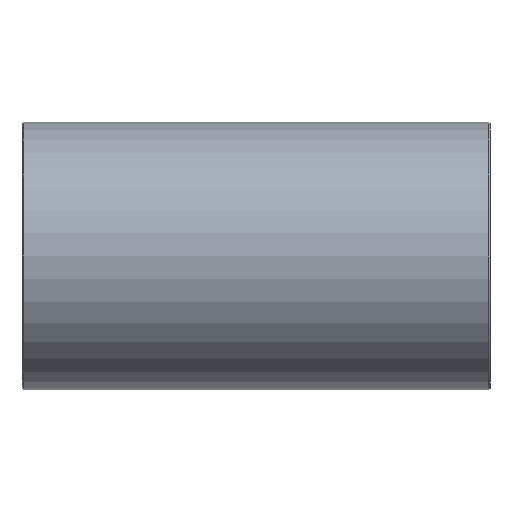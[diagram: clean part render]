
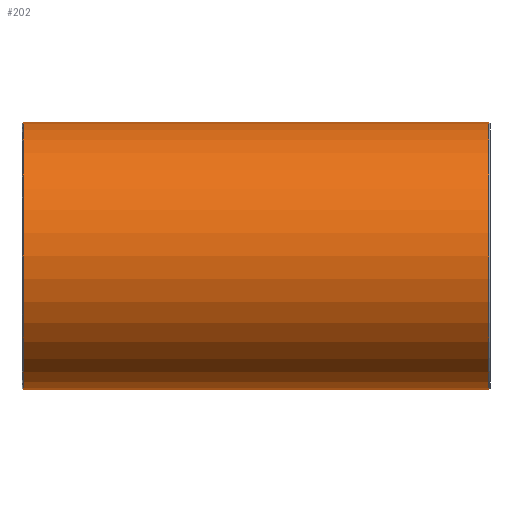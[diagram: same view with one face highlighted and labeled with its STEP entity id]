
A CAD part, front view. The second image highlights one B-rep face of the part: STEP entity #202.
In plain terms, the highlighted cylindrical face has radius 23.45 mm (diameter 46.9 mm), a full revolution.
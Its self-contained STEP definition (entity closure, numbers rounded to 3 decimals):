
#73=CARTESIAN_POINT('',(40.8,23.45,0.));
#74=VERTEX_POINT('',#73);
#75=CARTESIAN_POINT('',(40.8,0.0,0.0));
#76=DIRECTION('',(1.0,0.0,0.0));
#77=DIRECTION('',(0.0,-1.0,0.0));
#78=AXIS2_PLACEMENT_3D('',#75,#76,#77);
#79=CIRCLE('',#78,23.45);
#80=EDGE_CURVE('',#74,#74,#79,.T.);
#116=CARTESIAN_POINT('',(0.,0.0,0.0));
#117=DIRECTION('',(1.0,0.0,0.0));
#118=DIRECTION('',(0.0,1.0,0.0));
#119=AXIS2_PLACEMENT_3D('',#116,#117,#118);
#120=CYLINDRICAL_SURFACE('',#119,23.45);
#121=CARTESIAN_POINT('',(-40.8,23.45,0.));
#122=VERTEX_POINT('',#121);
#123=CARTESIAN_POINT('',(-40.8,0.0,0.0));
#124=DIRECTION('',(-1.0,0.0,0.0));
#125=DIRECTION('',(0.0,-1.0,0.0));
#126=AXIS2_PLACEMENT_3D('',#123,#124,#125);
#127=CIRCLE('',#126,23.45);
#128=EDGE_CURVE('',#122,#122,#127,.T.);
#129=ORIENTED_EDGE('',*,*,#128,.F.);
#130=EDGE_LOOP('',(#129));
#131=FACE_OUTER_BOUND('',#130,.T.);
#132=CARTESIAN_POINT('',(0.,15.832,17.299));
#133=VERTEX_POINT('',#132);
#134=CARTESIAN_POINT('',(0.,15.832,17.299));
#135=CARTESIAN_POINT('',(0.789,15.832,17.299));
#136=CARTESIAN_POINT('',(2.373,15.919,17.22));
#137=CARTESIAN_POINT('',(4.674,16.292,16.871));
#138=CARTESIAN_POINT('',(6.87,16.855,16.312));
#139=CARTESIAN_POINT('',(8.945,17.557,15.558));
#140=CARTESIAN_POINT('',(10.856,18.331,14.643));
#141=CARTESIAN_POINT('',(12.637,19.149,13.561));
#142=CARTESIAN_POINT('',(14.273,19.974,12.319));
#143=CARTESIAN_POINT('',(15.582,20.68,11.085));
#144=CARTESIAN_POINT('',(16.615,21.26,9.916));
#145=CARTESIAN_POINT('',(17.698,21.887,8.484));
#146=CARTESIAN_POINT('',(18.833,22.568,6.535));
#147=CARTESIAN_POINT('',(19.779,23.154,4.017));
#148=CARTESIAN_POINT('',(20.19,23.412,1.787));
#149=CARTESIAN_POINT('',(20.271,23.463,-0.011));
#150=CARTESIAN_POINT('',(20.186,23.41,-1.819));
#151=CARTESIAN_POINT('',(19.775,23.151,-4.032));
#152=CARTESIAN_POINT('',(18.975,22.656,-6.152));
#153=CARTESIAN_POINT('',(18.14,22.153,-7.724));
#154=CARTESIAN_POINT('',(17.178,21.583,-9.231));
#155=CARTESIAN_POINT('',(16.036,20.929,-10.622));
#156=CARTESIAN_POINT('',(14.744,20.227,-11.88));
#157=CARTESIAN_POINT('',(13.14,19.392,-13.232));
#158=CARTESIAN_POINT('',(11.201,18.466,-14.487));
#159=CARTESIAN_POINT('',(8.914,17.55,-15.563));
#160=CARTESIAN_POINT('',(6.488,16.723,-16.456));
#161=CARTESIAN_POINT('',(3.511,16.015,-17.134));
#162=CARTESIAN_POINT('',(-0.007,15.753,-17.37));
#163=CARTESIAN_POINT('',(-2.638,15.95,-17.192));
#164=CARTESIAN_POINT('',(-4.675,16.312,-16.849));
#165=CARTESIAN_POINT('',(-6.634,16.783,-16.384));
#166=CARTESIAN_POINT('',(-8.955,17.543,-15.585));
#167=CARTESIAN_POINT('',(-11.076,18.428,-14.523));
#168=CARTESIAN_POINT('',(-12.627,19.152,-13.543));
#169=CARTESIAN_POINT('',(-14.097,19.88,-12.468));
#170=CARTESIAN_POINT('',(-15.772,20.778,-10.945));
#171=CARTESIAN_POINT('',(-17.656,21.857,-8.646));
#172=CARTESIAN_POINT('',(-18.956,22.645,-6.28));
#173=CARTESIAN_POINT('',(-19.83,23.185,-3.736));
#174=CARTESIAN_POINT('',(-20.188,23.411,-1.804));
#175=CARTESIAN_POINT('',(-20.271,23.463,-0.006));
#176=CARTESIAN_POINT('',(-20.188,23.411,1.802));
#177=CARTESIAN_POINT('',(-19.861,23.205,3.574));
#178=CARTESIAN_POINT('',(-19.301,22.858,5.29));
#179=CARTESIAN_POINT('',(-18.599,22.428,6.939));
#180=CARTESIAN_POINT('',(-17.698,21.887,8.482));
#181=CARTESIAN_POINT('',(-16.617,21.262,9.914));
#182=CARTESIAN_POINT('',(-15.126,20.424,11.6));
#183=CARTESIAN_POINT('',(-13.235,19.425,13.195));
#184=CARTESIAN_POINT('',(-10.855,18.33,14.644));
#185=CARTESIAN_POINT('',(-8.937,17.554,15.561));
#186=CARTESIAN_POINT('',(-6.882,16.859,16.308));
#187=CARTESIAN_POINT('',(-4.673,16.291,16.871));
#188=CARTESIAN_POINT('',(-2.374,15.92,17.219));
#189=CARTESIAN_POINT('',(-0.789,15.832,17.299));
#190=CARTESIAN_POINT('',(0.,15.832,17.299));
#191=CARTESIAN_POINT('',(0.,15.832,17.299));
#192=CARTESIAN_POINT('',(0.,15.832,17.299));
#193=CARTESIAN_POINT('',(0.,15.832,17.299));
#194=B_SPLINE_CURVE_WITH_KNOTS('',3,(#134,#135,#136,#137,#138,#139,#140,#141,#142,#143,#144,#145,#146,#147,#148,#149,#150,#151,#152,#153,#154,#155,#156,#157,#158,#159,#160,#161,#162,#163,#164,#165,#166,#167,#168,#169,#170,#171,#172,#173,#174,#175,#176,#177,#178,#179,#180,#181,#182,#183,#184,#185,#186,#187,#188,#189,#190,#191,#192,#193),.UNSPECIFIED.,.T.,.U.,(4,1,1,1,1,1,1,1,1,1,1,1,1,1,1,1,1,1,1,1,1,1,1,1,1,1,1,1,1,1,1,1,1,1,1,1,1,1,1,1,1,1,1,1,1,1,1,1,1,1,1,1,1,1,3,4),(-10.247,-10.064,-9.881,-9.698,-9.515,-9.332,-9.149,-8.966,-8.783,-8.661,-8.539,-8.295,-8.051,-7.807,-7.685,-7.563,-7.319,-7.075,-6.953,-6.831,-6.587,-6.465,-6.343,-6.018,-5.855,-5.693,-5.367,-5.123,-4.88,-4.758,-4.636,-4.392,-4.148,-4.026,-3.904,-3.66,-3.416,-3.09,-2.928,-2.684,-2.562,-2.44,-2.196,-2.074,-1.952,-1.708,-1.586,-1.464,-1.098,-0.915,-0.732,-0.549,-0.366,-0.183,0.0,0.),.UNSPECIFIED.);
#195=EDGE_CURVE('',#133,#133,#194,.T.);
#196=ORIENTED_EDGE('',*,*,#195,.F.);
#197=EDGE_LOOP('',(#196));
#198=FACE_BOUND('',#197,.T.);
#199=ORIENTED_EDGE('',*,*,#80,.F.);
#200=EDGE_LOOP('',(#199));
#201=FACE_BOUND('',#200,.T.);
#202=ADVANCED_FACE('',(#131,#198,#201),#120,.T.);
